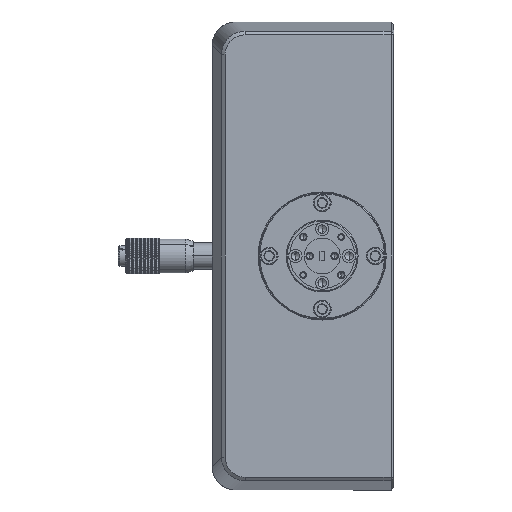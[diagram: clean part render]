
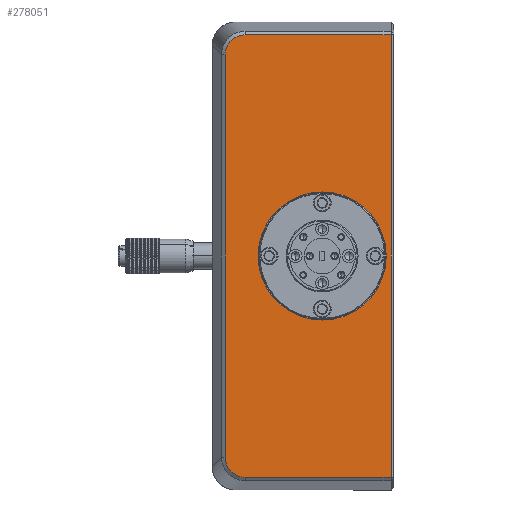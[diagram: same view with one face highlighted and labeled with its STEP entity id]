
A CAD part, left-side view. The second image highlights one B-rep face of the part: STEP entity #278051.
In plain terms, the highlighted planar face has unit normal (-1, 0, 0).
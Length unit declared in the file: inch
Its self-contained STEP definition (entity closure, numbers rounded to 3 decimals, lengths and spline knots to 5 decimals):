
#36331 = CARTESIAN_POINT ( 'NONE',  ( -3.68787, -0.35747, -0.48284 ) ) ;
#36882 = CARTESIAN_POINT ( 'NONE',  ( -3.68787, 1.29739, -0.44112 ) ) ;
#44366 = CARTESIAN_POINT ( 'NONE',  ( -3.68787, 1.37761, -0.27392 ) ) ;
#49311 = EDGE_CURVE ( 'NONE', #536016, #595820, #312005, .T. ) ;
#49790 = B_SPLINE_CURVE_WITH_KNOTS ( 'NONE', 3,
 ( #367299, #186546, #246813, #363603, #307128, #660604, #532895, #299704, #472650, #593211 ),
 .UNSPECIFIED., .F., .F.,
 ( 4, 2, 2, 2, 4 ),
 ( 0., 0.25, 0.5, 0.75, 1. ),
 .UNSPECIFIED. ) ;
#70341 = ORIENTED_EDGE ( 'NONE', *, *, #459733, .T. ) ;
#84803 = EDGE_CURVE ( 'NONE', #450498, #631078, #340470, .T. ) ;
#85056 = LINE ( 'NONE', #713425, #340136 ) ;
#89631 = CARTESIAN_POINT ( 'NONE',  ( -3.68787, 0.56253, 4.14181 ) ) ;
#145078 = EDGE_CURVE ( 'NONE', #595820, #536016, #159500, .T. ) ;
#159500 = CIRCLE ( 'NONE', #435698, 0.67 ) ;
#170376 = VERTEX_POINT ( 'NONE', #702552 ) ;
#179849 = CARTESIAN_POINT ( 'NONE',  ( -3.68787, 1.37761, 3.93289 ) ) ;
#186546 = CARTESIAN_POINT ( 'NONE',  ( -3.68787, 1.19617, 4.14181 ) ) ;
#189558 = CARTESIAN_POINT ( 'NONE',  ( -3.68787, -0.35747, 4.14181 ) ) ;
#217359 = CARTESIAN_POINT ( 'NONE',  ( -3.68787, 1.22368, -0.47741 ) ) ;
#223677 = DIRECTION ( 'NONE',  ( 0., 0., 1. ) ) ;
#238437 = FACE_OUTER_BOUND ( 'NONE', #575932, .T. ) ;
#241464 = DIRECTION ( 'NONE',  ( 0., 0., 1. ) ) ;
#242139 = PLANE ( 'NONE',  #701634 ) ;
#246813 = CARTESIAN_POINT ( 'NONE',  ( -3.68787, 1.22367, 4.13638 ) ) ;
#258094 = DIRECTION ( 'NONE',  ( 0., -1., 0. ) ) ;
#264487 = DIRECTION ( 'NONE',  ( -1., 0., 0. ) ) ;
#270166 = CARTESIAN_POINT ( 'NONE',  ( -3.68787, 1.37761, -0.3014 ) ) ;
#278051 = ADVANCED_FACE ( 'NONE', ( #238437, #592171 ), #242139, .F. ) ;
#298821 = EDGE_LOOP ( 'NONE', ( #687743, #518359 ) ) ;
#299704 = CARTESIAN_POINT ( 'NONE',  ( -3.68787, 1.37218, 3.98788 ) ) ;
#300166 = AXIS2_PLACEMENT_3D ( 'NONE', #366386, #264487, #486537 ) ;
#302000 = EDGE_CURVE ( 'NONE', #328895, #170376, #508709, .T. ) ;
#302374 = CARTESIAN_POINT ( 'NONE',  ( -3.68787, 0.56253, 1.82949 ) ) ;
#305382 = DIRECTION ( 'NONE',  ( -1., 0., 0. ) ) ;
#307128 = CARTESIAN_POINT ( 'NONE',  ( -3.68787, 1.29738, 4.10009 ) ) ;
#312005 = CIRCLE ( 'NONE', #300166, 0.67 ) ;
#313893 = VECTOR ( 'NONE', #429526, 39.37008 ) ;
#328895 = VERTEX_POINT ( 'NONE', #413368 ) ;
#334097 = CARTESIAN_POINT ( 'NONE',  ( -3.68787, 1.19623, -0.48284 ) ) ;
#340136 = VECTOR ( 'NONE', #258094, 39.37008 ) ;
#340470 = LINE ( 'NONE', #619044, #405912 ) ;
#355696 = EDGE_CURVE ( 'NONE', #684942, #586988, #49790, .T. ) ;
#363603 = CARTESIAN_POINT ( 'NONE',  ( -3.68787, 1.27415, 4.11558 ) ) ;
#366386 = CARTESIAN_POINT ( 'NONE',  ( -3.68787, 0.36253, 1.82949 ) ) ;
#367299 = CARTESIAN_POINT ( 'NONE',  ( -3.68787, 1.16869, 4.14181 ) ) ;
#383103 = CARTESIAN_POINT ( 'NONE',  ( -3.68787, 1.33589, -0.40261 ) ) ;
#386701 = CARTESIAN_POINT ( 'NONE',  ( -3.68787, 0.36253, 1.15949 ) ) ;
#394160 = ORIENTED_EDGE ( 'NONE', *, *, #439248, .T. ) ;
#405912 = VECTOR ( 'NONE', #223677, 39.37008 ) ;
#407827 = DIRECTION ( 'NONE',  ( 1., 0., 0. ) ) ;
#413368 = CARTESIAN_POINT ( 'NONE',  ( -3.68787, 1.37761, -0.27392 ) ) ;
#429526 = DIRECTION ( 'NONE',  ( 0., 0., -1. ) ) ;
#435698 = AXIS2_PLACEMENT_3D ( 'NONE', #478339, #305382, #241464 ) ;
#439248 = EDGE_CURVE ( 'NONE', #631078, #684942, #717971, .T. ) ;
#450498 = VERTEX_POINT ( 'NONE', #36331 ) ;
#452257 = ORIENTED_EDGE ( 'NONE', *, *, #84803, .T. ) ;
#459733 = EDGE_CURVE ( 'NONE', #170376, #450498, #85056, .T. ) ;
#466393 = ORIENTED_EDGE ( 'NONE', *, *, #355696, .T. ) ;
#472650 = CARTESIAN_POINT ( 'NONE',  ( -3.68787, 1.37761, 3.96043 ) ) ;
#478339 = CARTESIAN_POINT ( 'NONE',  ( -3.68787, 0.36253, 1.82949 ) ) ;
#486537 = DIRECTION ( 'NONE',  ( 0., 0., 1. ) ) ;
#495920 = CARTESIAN_POINT ( 'NONE',  ( -3.68787, 1.16869, -0.48284 ) ) ;
#499603 = CARTESIAN_POINT ( 'NONE',  ( -3.68787, 1.35138, -0.37938 ) ) ;
#508709 = B_SPLINE_CURVE_WITH_KNOTS ( 'NONE', 3,
 ( #44366, #270166, #552499, #499603, #383103, #36882, #676406, #217359, #334097, #495920 ),
 .UNSPECIFIED., .F., .F.,
 ( 4, 2, 2, 2, 4 ),
 ( 0., 0.25, 0.5, 0.75, 1. ),
 .UNSPECIFIED. ) ;
#516758 = VECTOR ( 'NONE', #594170, 39.37008 ) ;
#518359 = ORIENTED_EDGE ( 'NONE', *, *, #49311, .F. ) ;
#532895 = CARTESIAN_POINT ( 'NONE',  ( -3.68787, 1.35137, 4.03835 ) ) ;
#535084 = LINE ( 'NONE', #715507, #313893 ) ;
#536016 = VERTEX_POINT ( 'NONE', #386701 ) ;
#547002 = ORIENTED_EDGE ( 'NONE', *, *, #302000, .T. ) ;
#552499 = CARTESIAN_POINT ( 'NONE',  ( -3.68787, 1.37217, -0.3289 ) ) ;
#575932 = EDGE_LOOP ( 'NONE', ( #547002, #70341, #452257, #394160, #466393, #740924 ) ) ;
#586988 = VERTEX_POINT ( 'NONE', #179849 ) ;
#592171 = FACE_BOUND ( 'NONE', #298821, .T. ) ;
#593211 = CARTESIAN_POINT ( 'NONE',  ( -3.68787, 1.37761, 3.93289 ) ) ;
#594170 = DIRECTION ( 'NONE',  ( 0., 1., 0. ) ) ;
#595820 = VERTEX_POINT ( 'NONE', #686890 ) ;
#615875 = CARTESIAN_POINT ( 'NONE',  ( -3.68787, 1.16869, 4.14181 ) ) ;
#619044 = CARTESIAN_POINT ( 'NONE',  ( -3.68787, -0.35747, 1.82949 ) ) ;
#631078 = VERTEX_POINT ( 'NONE', #189558 ) ;
#660604 = CARTESIAN_POINT ( 'NONE',  ( -3.68787, 1.33589, 4.06159 ) ) ;
#665982 = EDGE_CURVE ( 'NONE', #586988, #328895, #535084, .T. ) ;
#676406 = CARTESIAN_POINT ( 'NONE',  ( -3.68787, 1.27415, -0.4566 ) ) ;
#684942 = VERTEX_POINT ( 'NONE', #615875 ) ;
#686890 = CARTESIAN_POINT ( 'NONE',  ( -3.68787, 0.36253, 2.49949 ) ) ;
#687743 = ORIENTED_EDGE ( 'NONE', *, *, #145078, .F. ) ;
#701153 = DIRECTION ( 'NONE',  ( 0., 0., -1. ) ) ;
#701634 = AXIS2_PLACEMENT_3D ( 'NONE', #302374, #407827, #701153 ) ;
#702552 = CARTESIAN_POINT ( 'NONE',  ( -3.68787, 1.16869, -0.48284 ) ) ;
#713425 = CARTESIAN_POINT ( 'NONE',  ( -3.68787, 0.56253, -0.48284 ) ) ;
#715507 = CARTESIAN_POINT ( 'NONE',  ( -3.68787, 1.37761, 1.82949 ) ) ;
#717971 = LINE ( 'NONE', #89631, #516758 ) ;
#740924 = ORIENTED_EDGE ( 'NONE', *, *, #665982, .T. ) ;
